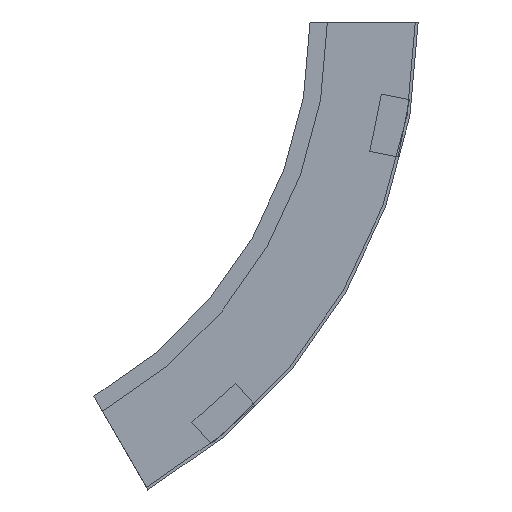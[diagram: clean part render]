
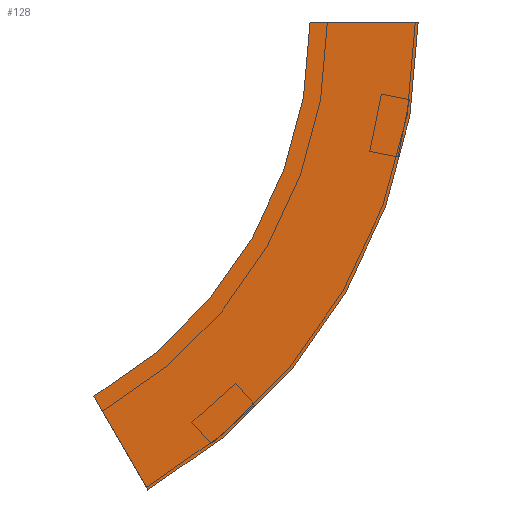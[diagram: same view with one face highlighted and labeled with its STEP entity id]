
A CAD part, left-side view. The second image highlights one B-rep face of the part: STEP entity #128.
In plain terms, the highlighted planar face has unit normal (-1, 0, 0) as drawn and (1, 0, 0) by its records, which use the part's own axes.
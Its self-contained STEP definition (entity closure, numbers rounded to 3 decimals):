
#13 = CIRCLE ( 'NONE', #371, 300. ) ;
#28 = ORIENTED_EDGE ( 'NONE', *, *, #230, .F. ) ;
#69 = EDGE_CURVE ( 'NONE', #550, #400, #282, .T. ) ;
#75 = CARTESIAN_POINT ( 'NONE',  ( 0., 300., 0. ) ) ;
#91 = FACE_OUTER_BOUND ( 'NONE', #505, .T. ) ;
#94 = CARTESIAN_POINT ( 'NONE',  ( 0., 150., -259.808 ) ) ;
#110 = AXIS2_PLACEMENT_3D ( 'NONE', #228, #543, #178 ) ;
#115 = DIRECTION ( 'NONE',  ( 1., 0., 0. ) ) ;
#117 = ORIENTED_EDGE ( 'NONE', *, *, #415, .T. ) ;
#124 = CARTESIAN_POINT ( 'NONE',  ( 0., -75., 0. ) ) ;
#127 = DIRECTION ( 'NONE',  ( 0., 1., 0. ) ) ;
#128 = ADVANCED_FACE ( 'NONE', ( #91 ), #405, .F. ) ;
#143 = DIRECTION ( 'NONE',  ( 0., 0.5, 0.866 ) ) ;
#178 = DIRECTION ( 'NONE',  ( 0., -1., 0. ) ) ;
#227 = DIRECTION ( 'NONE',  ( 0., 0., 1. ) ) ;
#228 = CARTESIAN_POINT ( 'NONE',  ( 0., 300., 0. ) ) ;
#230 = EDGE_CURVE ( 'NONE', #553, #400, #13, .T. ) ;
#269 = VECTOR ( 'NONE', #143, 1000. ) ;
#282 = LINE ( 'NONE', #370, #269 ) ;
#300 = ORIENTED_EDGE ( 'NONE', *, *, #313, .F. ) ;
#302 = CARTESIAN_POINT ( 'NONE',  ( 0., 0., 0. ) ) ;
#313 = EDGE_CURVE ( 'NONE', #559, #553, #407, .T. ) ;
#370 = CARTESIAN_POINT ( 'NONE',  ( 0., 112.5, -324.76 ) ) ;
#371 = AXIS2_PLACEMENT_3D ( 'NONE', #75, #115, #474 ) ;
#372 = CIRCLE ( 'NONE', #110, 375. ) ;
#386 = CARTESIAN_POINT ( 'NONE',  ( 0., 112.5, -324.76 ) ) ;
#398 = ORIENTED_EDGE ( 'NONE', *, *, #69, .T. ) ;
#400 = VERTEX_POINT ( 'NONE', #94 ) ;
#405 = PLANE ( 'NONE',  #571 ) ;
#407 = LINE ( 'NONE', #124, #462 ) ;
#415 = EDGE_CURVE ( 'NONE', #559, #550, #372, .T. ) ;
#462 = VECTOR ( 'NONE', #127, 1000. ) ;
#474 = DIRECTION ( 'NONE',  ( 0., -1., 0. ) ) ;
#493 = DIRECTION ( 'NONE',  ( -1., 0., 0. ) ) ;
#505 = EDGE_LOOP ( 'NONE', ( #28, #300, #117, #398 ) ) ;
#542 = CARTESIAN_POINT ( 'NONE',  ( 0., -75., 0. ) ) ;
#543 = DIRECTION ( 'NONE',  ( 1., 0., 0. ) ) ;
#550 = VERTEX_POINT ( 'NONE', #386 ) ;
#553 = VERTEX_POINT ( 'NONE', #302 ) ;
#558 = CARTESIAN_POINT ( 'NONE',  ( 0., -75., 0. ) ) ;
#559 = VERTEX_POINT ( 'NONE', #558 ) ;
#571 = AXIS2_PLACEMENT_3D ( 'NONE', #542, #493, #227 ) ;
